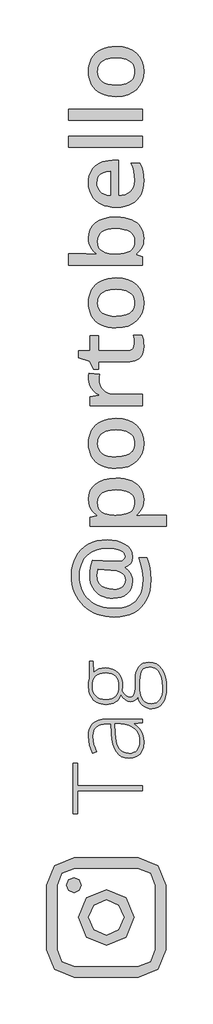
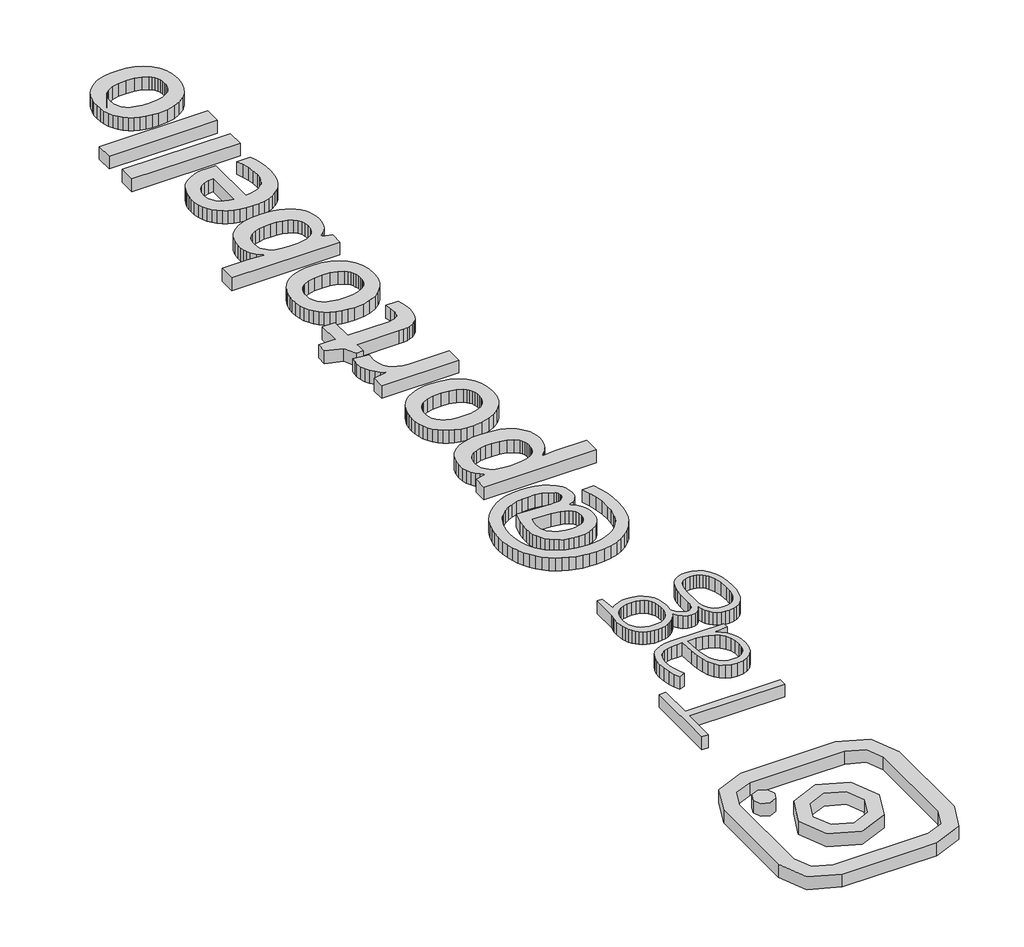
# One storey, part 3 of 7: 3 proxies.
"""IFC4 building model written with IfcOpenShell, lengths in millimetres."""

from ifc_helpers import new_model, si_unit, origin, origin_with_axes, place, context, project, spatial, polyline, outline, extrude, transform, mapped, element, save
from components import generic_models_d67f6705

model = new_model("IFC4")

# Units and contexts
model_context = context("Model", 3, world=origin())
ifc_project = project(units=[si_unit("LENGTHUNIT", "METRE", prefix="MILLI")], contexts=[model_context])

# Site, building, storey
site = spatial("IfcSite", under=ifc_project)
building = spatial("IfcBuilding", under=site)
storey = spatial("IfcBuildingStorey", under=building, Name="PORTOBELLO - SHOWROOM", Elevation=0.0)

# Proxies
placement = place(None, origin())
generic_models_shape = generic_models_d67f6705(model_context)
element("IfcBuildingElementProxy", 1, Name="Blks_Instagram : Único", ObjectType="Blks_Instagram : Único", at=placement, inside=storey, context=model_context, shape_type="MappedRepresentation", body=[
    mapped(generic_models_shape, transform((-14611.3805335, -13261.2406298, 0.0), x_axis=(-1.0, 0.0, 0.0), y_axis=(0.0, -1.0, 0.0), z_axis=(0.0, 0.0, 1.0))),
])
element("IfcBuildingElementProxy", 2, Name="80mm OpenSans Bold", ObjectType="80mm OpenSans Bold", at=placement, inside=storey, context=model_context, shape_type="SweptSolid", body=[
    extrude(outline(polyline([(-14600.648581, -9167.593007), (-14550.4420113, -9170.4473602), (-14501.2569994, -9179.0104197), (-14454.9563866, -9193.4023688), (-14413.4030138, -9213.7433907), (-14378.1592637, -9239.973394), (-14350.7875192, -9272.0322868), (-14340.5343822, -9290.3226814), (-14333.2107129, -9310.2205275), (-14327.3517775, -9354.8385743), (-14333.1806671, -9394.709381), (-14340.4667791, -9411.918126), (-14350.6673359, -9427.3090987), (-14376.7471101, -9451.2556194), (-14408.3553156, -9465.1668353), (-14408.3553156, -9471.8970996), (-14377.1977974, -9496.5346743), (-14351.0278858, -9529.1043461), (-14340.6695884, -9548.3937643), (-14333.2708046, -9569.7262984), (-14328.8315343, -9593.1019485), (-14327.3517775, -9618.5207145), (-14330.9497648, -9660.0740874), (-14341.7437266, -9696.5196703), (-14359.7336629, -9727.8574635), (-14384.9195738, -9754.0874667), (-14416.0245118, -9774.8040615), (-14451.7715294, -9789.6016292), (-14492.1606266, -9798.4801698), (-14537.1918034, -9801.4396833), (-14572.9087752, -9799.6294225), (-14606.5075165, -9794.19864), (-14637.9880272, -9785.1473359), (-14667.3503075, -9772.4755102), (-14694.1436699, -9756.4460638), (-14717.9174271, -9737.3218976), (-14738.6715792, -9715.1030117), (-14756.4061261, -9689.7894061), (-14770.6027773, -9661.7641649), (-14780.7432425, -9631.4103725), (-14786.8275216, -9598.7280288), (-14788.8556146, -9563.7171339), (-14786.6923154, -9515.3734051), (-14780.2024177, -9466.9695847), (-14761.6941909, -9390.4128284), (-14536.7110703, -9400.7485914), (-14509.5496465, -9402.1907909), (-14493.9258187, -9402.4311575), (-14449.638276, -9398.4050172), (-14434.1196086, -9393.3723419), (-14423.0176771, -9386.3265965), (-14409.6773318, -9368.8399277), (-14405.23055, -9348.5890431), (-14406.8905817, -9334.6177356), (-14411.8706768, -9321.7881693), (-14420.1708354, -9310.1003442), (-14431.7910573, -9299.5542605), (-14462.7983464, -9282.0075), (-14502.6991989, -9269.2680711), (-14549.4204533, -9261.5162489), (-14600.8889476, -9258.9323081), (-14647.6702936, -9261.3134396), (-14690.9062325, -9268.4568339), (-14730.5967643, -9280.3624912), (-14766.7418891, -9297.0304113), (-14799.0711943, -9317.844655), (-14827.3142677, -9342.1892829), (-14851.4711092, -9370.0642949), (-14871.5417188, -9401.4696911), (-14887.3157757, -9435.7970436), (-14898.5829592, -9472.4379244), (-14905.3432693, -9511.3923336), (-14907.596706, -9552.6602711), (-14905.8465369, -9594.9272322), (-14900.5960293, -9634.715413), (-14891.8451835, -9672.0248134), (-14879.5939992, -9706.8554334), (-14864.1804922, -9739.1171355), (-14845.9426778, -9768.7197824), (-14824.8805561, -9795.6633739), (-14800.994127, -9819.9479101), (-14774.5237572, -9841.490765), (-14745.7098132, -9860.2093126), (-14714.552295, -9876.1035528), (-14681.0512027, -9889.1734857), (-14645.4994829, -9899.3740425), (-14608.1900825, -9906.6601545), (-14528.2982399, -9912.4890441), (-14479.1357625, -9910.2506303), (-14433.8041274, -9903.5353889), (-14392.3033348, -9892.34332), (-14354.6333845, -9876.6744234), (-14321.0421547, -9856.6488826), (-14291.7775234, -9832.3868807), (-14266.8394905, -9803.8884179), (-14246.2280561, -9771.153494), (-14230.0859379, -9734.377407), (-14218.5558534, -9693.7554547), (-14211.6378027, -9649.287637), (-14209.3317858, -9600.9739541), (-14212.7570096, -9538.2983679), (-14223.032681, -9475.7429649), (-14238.115684, -9416.1921443), (-14255.9629027, -9362.5303049), (-14172.5556988, -9362.5303049), (-14154.2878386, -9413.4880202), (-14139.8658437, -9470.2145336), (-14130.491547, -9532.16902), (-14127.3667814, -9598.8106548), (-14130.3262949, -9660.5473091), (-14139.2048356, -9717.6418837), (-14154.0024033, -9770.0943788), (-14174.718998, -9817.9047942), (-14201.0166044, -9860.7351145), (-14232.5572068, -9898.2473241), (-14269.3408053, -9930.4414232), (-14311.3673998, -9957.3174116), (-14358.2163489, -9978.5072281), (-14409.467011, -9993.6428113), (-14465.1193862, -10002.7241612), (-14525.1734743, -10005.7512779), (-14574.1932341, -10003.7907879), (-14621.2600154, -9997.9093181), (-14666.3738182, -9988.1068685), (-14709.5346426, -9974.3834389), (-14750.3669157, -9956.9643732), (-14788.4950647, -9936.075015), (-14823.9190897, -9911.7153642), (-14856.6389907, -9883.8854209), (-14886.2566604, -9852.7879944), (-14912.3739918, -9818.6258939), (-14934.9909849, -9781.3991196), (-14954.1076396, -9741.1076713), (-14969.3033145, -9697.9919157), (-14980.1573679, -9652.2922193), (-14986.6698, -9604.0085822), (-14988.8406107, -9553.1410043), (-14985.8961201, -9498.4876527), (-14977.0626482, -9447.0191584), (-14962.340195, -9398.7355213), (-14941.7287606, -9353.6367414), (-14915.6865438, -9312.4739642), (-14884.6717433, -9275.9983354), (-14848.6843591, -9244.209855), (-14807.7243913, -9217.1085229), (-14762.1974584, -9195.4454847), (-14712.509179, -9179.971886), (-14658.6595533, -9170.6877268), (-14600.648581, -9167.593007)]), holes=[polyline([(-14534.547771, -9703.1297513), (-14503.1649092, -9701.5072769), (-14476.3189666, -9696.6398536), (-14454.0099432, -9688.5274815), (-14436.2378391, -9677.1701605), (-14422.6721501, -9663.018578), (-14412.9823723, -9646.5234213), (-14407.1685056, -9627.6846905), (-14405.23055, -9606.5023855), (-14408.032323, -9580.0245042), (-14416.4376419, -9557.5577402), (-14430.4465067, -9539.1020936), (-14450.0589175, -9524.6575643), (-14474.2533163, -9513.5180756), (-14502.008145, -9504.9775504), (-14568.1990925, -9495.6933912), (-14701.6025454, -9489.4438601), (-14707.6117099, -9521.0520656), (-14710.0153758, -9559.8712686), (-14708.4454815, -9584.5464005), (-14703.7357988, -9606.6526146), (-14695.8863276, -9626.1899108), (-14684.897068, -9643.1582892), (-14656.0230323, -9670.2596213), (-14619.637541, -9688.8279397), (-14578.2944889, -9699.5542984), (-14534.547771, -9703.1297513)])]), origin_with_axes(), (0.0, 0.0, 1.0), 100.0),
    extrude(outline(polyline([(-14804.2390758, -8727.4817957), (-14799.5369046, -8678.9202347), (-14785.4303908, -8635.391349), (-14761.9195345, -8596.8951387), (-14729.0043357, -8563.4316036), (-14686.8049777, -8536.3528059), (-14635.4416437, -8517.0108075), (-14574.9143339, -8505.4056085), (-14505.223048, -8501.5372088), (-14458.1187095, -8503.3324467), (-14414.8752591, -8508.7181604), (-14375.492697, -8517.6943499), (-14339.971023, -8530.2610153), (-14308.4379321, -8546.0500951), (-14281.0211188, -8564.6935282), (-14257.7205833, -8586.1913143), (-14238.5363255, -8610.5434536), (-14223.5509714, -8637.3818848), (-14212.8471471, -8666.3385464), (-14206.4248525, -8697.4134386), (-14204.2840876, -8730.6065613), (-14207.1384408, -8771.2585594), (-14215.7015002, -8806.2018512), (-14228.8615706, -8835.9772616), (-14245.5069564, -8861.1256152), (-14264.7062371, -8882.1576911), (-14285.5279923, -8899.5842683), (-14285.5279923, -8906.7952657), (-14239.3776085, -8901.8677508), (-14193.2272248, -8899.5842683), (-13958.1487078, -8899.5842683), (-13958.1487078, -9021.9308584), (-14788.8556146, -9021.9308584), (-14788.8556146, -8922.4190936), (-14714.1016077, -8905.3530663), (-14714.1016077, -8899.5842683), (-14737.5073036, -8881.7370496), (-14759.1703417, -8860.4045154), (-14777.7987518, -8834.8655661), (-14792.1005635, -8804.3991019), (-14801.2044477, -8768.7046645), (-14804.2390758, -8727.4817957)]), holes=[polyline([(-14704.727311, -8760.1716508), (-14699.6796127, -8805.4206599), (-14693.36999, -8824.3044594), (-14684.5365181, -8840.6944557), (-14673.1791971, -8854.808481), (-14659.298027, -8866.8643673), (-14623.9641395, -8884.8017235), (-14578.4146722, -8895.4078989), (-14522.5294419, -8899.5842683), (-14505.223048, -8899.5842683), (-14445.6722274, -8896.2792278), (-14395.8562533, -8886.3641063), (-14356.3159506, -8868.7272083), (-14340.6019853, -8856.5962074), (-14327.5921441, -8842.2568385), (-14317.3915873, -8825.4386892), (-14310.1054752, -8805.8713472), (-14305.733808, -8783.5548124), (-14304.2765856, -8758.4890848), (-14305.816434, -8737.2016193), (-14310.4359793, -8717.8070408), (-14318.1352214, -8700.305349), (-14328.9141603, -8684.6965441), (-14358.8097539, -8659.0975032), (-14399.2213855, -8640.9498262), (-14448.9772679, -8630.1333301), (-14506.9056141, -8626.5278313), (-14551.2682714, -8628.5784587), (-14590.3729097, -8634.7303409), (-14624.219529, -8644.9834779), (-14652.8081293, -8659.3378697), (-14675.5227713, -8677.9437455), (-14691.7475155, -8700.9513342), (-14701.4823621, -8728.360636), (-14704.727311, -8760.1716508)])]), origin_with_axes(), (0.0, 0.0, 1.0), 100.0),
    extrude(outline(polyline([(-14505.223048, -7852.5474378), (-14437.1692596, -7857.2045404), (-14377.2278432, -7871.1758479), (-14325.6992572, -7894.0707648), (-14282.8839599, -7925.4986954), (-14249.0223176, -7964.8587232), (-14224.3546972, -8011.5499317), (-14209.30174, -8065.1216336), (-14204.2840876, -8125.1231416), (-14209.30174, -8181.7595175), (-14224.3546972, -8233.4082867), (-14249.0223176, -8279.2882581), (-14282.8839599, -8318.61824), (-14325.6992572, -8350.5869954), (-14377.2278432, -8374.383287), (-14437.1692596, -8389.1658318), (-14505.223048, -8394.0933467), (-14551.245737, -8392.0352078), (-14593.6479043, -8385.8607913), (-14632.42955, -8375.570097), (-14667.5906741, -8361.163125), (-14698.958513, -8342.932822), (-14726.3603033, -8321.1721349), (-14749.7960451, -8295.8810637), (-14769.2657382, -8267.0596082), (-14784.5665734, -8235.0232497), (-14795.4957414, -8200.0874693), (-14802.0532422, -8162.2522671), (-14804.2390758, -8121.5176429), (-14802.0532422, -8083.0214325), (-14795.4957414, -8046.8537734), (-14784.5665734, -8013.0146656), (-14769.2657382, -7981.504109), (-14749.7810221, -7952.8178597), (-14726.3002117, -7927.4516739), (-14698.8233068, -7905.4055515), (-14667.3503075, -7886.6794925), (-14632.1140689, -7871.7467186), (-14593.3474461, -7861.0804515), (-14551.0504392, -7854.6806912), (-14505.223048, -7852.5474378)]), holes=[polyline([(-14505.223048, -8268.621991), (-14446.3632813, -8264.8061715), (-14396.6975363, -8253.358713), (-14356.9168671, -8233.8589741), (-14340.992581, -8220.9317589), (-14327.7123274, -8205.8863131), (-14317.2488696, -8188.624988), (-14309.7749712, -8169.0501345), (-14305.2906322, -8147.1617526), (-14303.7958525, -8122.9598424), (-14305.2906322, -8098.7579322), (-14309.7749712, -8076.8695503), (-14317.2488696, -8057.2946968), (-14327.7123274, -8040.0333717), (-14340.992581, -8025.0029488), (-14356.9168671, -8012.1208023), (-14396.6975363, -7992.8013383), (-14446.3632813, -7981.5341548), (-14505.223048, -7977.778427), (-14564.0828148, -7981.5341548), (-14613.2678266, -7992.8013383), (-14652.3574419, -8012.1208023), (-14667.9587354, -8025.0029488), (-14680.9310194, -8040.0333717), (-14691.1315762, -8057.3247426), (-14698.4176882, -8076.9897336), (-14702.7893554, -8099.0283446), (-14704.2465778, -8123.4405756), (-14701.0316748, -8158.7369058), (-14691.3869657, -8188.9104233), (-14675.3124505, -8213.961128), (-14652.8081293, -8233.8890199), (-14624.2946435, -8249.0846948), (-14590.1926347, -8259.9387482), (-14550.5021029, -8266.4511803), (-14505.223048, -8268.621991)])]), origin_with_axes(), (0.0, 0.0, 1.0), 100.0),
    extrude(outline(polyline([(-14804.2390758, -7423.4930893), (-14802.6766931, -7391.8848838), (-14798.4702779, -7362.4399775), (-14684.5365181, -7373.7372068), (-14689.2236664, -7400.4178974), (-14690.7860492, -7428.7811541), (-14688.1420168, -7460.5095429), (-14680.2099196, -7490.7957322), (-14666.8996201, -7518.6782557), (-14648.1209809, -7543.195647), (-14623.9340936, -7563.5667148), (-14594.3990499, -7579.0102677), (-14559.6059872, -7588.7451143), (-14519.645043, -7591.9900631), (-14219.6675488, -7591.9900631), (-14219.6675488, -7714.3366533), (-14788.8556146, -7714.3366533), (-14788.8556146, -7618.9111203), (-14692.4686153, -7602.3258261), (-14692.4686153, -7596.5570282), (-14721.7032008, -7577.4178391), (-14748.3538456, -7554.1323265), (-14771.1886708, -7526.8807653), (-14788.9757979, -7495.8434304), (-14800.4232564, -7461.2907343), (-14804.2390758, -7423.4930893)])), origin_with_axes(), (0.0, 0.0, 1.0), 100.0),
    extrude(outline(polyline([(-14302.8343861, -7039.1469249), (-14307.1609846, -6992.0350749), (-14317.7371142, -6949.4901899), (-14225.4363468, -6949.4901899), (-14210.5336187, -7001.8901047), (-14205.8464704, -7034.7001432), (-14204.2840876, -7068.7120145), (-14208.3703195, -7115.0126273), (-14220.6290152, -7156.3256336), (-14230.2737243, -7174.7362114), (-14242.862924, -7191.1487421), (-14258.3966143, -7205.5632256), (-14276.8747953, -7217.9796618), (-14298.7481543, -7227.9698979), (-14324.4673785, -7235.1057808), (-14354.0324681, -7239.3873105), (-14387.4434229, -7240.8144871), (-14696.074114, -7240.8144871), (-14696.074114, -7319.1739928), (-14750.3969615, -7319.1739928), (-14793.4225797, -7235.0456891), (-14911.9233045, -7195.1448365), (-14911.9233045, -7118.4678969), (-14788.8556146, -7118.4678969), (-14788.8556146, -6954.2975215), (-14696.074114, -6954.2975215), (-14696.074114, -7118.4678969), (-14388.8856224, -7118.4678969), (-14350.9377483, -7113.029603), (-14336.1326692, -7106.2317356), (-14324.1068286, -7096.7147213), (-14314.800135, -7084.9592931), (-14308.1524968, -7071.4461844), (-14302.8343861, -7039.1469249)])), origin_with_axes(), (0.0, 0.0, 1.0), 100.0),
    extrude(outline(polyline([(-14505.223048, -6329.5847754), (-14437.1692596, -6334.2418779), (-14377.2278432, -6348.2131854), (-14325.6992572, -6371.1081024), (-14282.8839599, -6402.5360329), (-14249.0223176, -6441.8960607), (-14224.3546972, -6488.5872692), (-14209.30174, -6542.1589712), (-14204.2840876, -6602.1604792), (-14209.30174, -6658.796855), (-14224.3546972, -6710.4456243), (-14249.0223176, -6756.3255956), (-14282.8839599, -6795.6555775), (-14325.6992572, -6827.6243329), (-14377.2278432, -6851.4206245), (-14437.1692596, -6866.2031693), (-14505.223048, -6871.1306842), (-14551.245737, -6869.0725454), (-14593.6479043, -6862.8981288), (-14632.42955, -6852.6074345), (-14667.5906741, -6838.2004625), (-14698.958513, -6819.9701596), (-14726.3603033, -6798.2094725), (-14749.7960451, -6772.9184012), (-14769.2657382, -6744.0969457), (-14784.5665734, -6712.0605872), (-14795.4957414, -6677.1248069), (-14802.0532422, -6639.2896046), (-14804.2390758, -6598.5549804), (-14802.0532422, -6560.0587701), (-14795.4957414, -6523.8911109), (-14784.5665734, -6490.0520031), (-14769.2657382, -6458.5414465), (-14749.7810221, -6429.8551973), (-14726.3002117, -6404.4890114), (-14698.8233068, -6382.442889), (-14667.3503075, -6363.71683), (-14632.1140689, -6348.7840561), (-14593.3474461, -6338.117789), (-14551.0504392, -6331.7180288), (-14505.223048, -6329.5847754)]), holes=[polyline([(-14505.223048, -6745.6593285), (-14446.3632813, -6741.843509), (-14396.6975363, -6730.3960506), (-14356.9168671, -6710.8963116), (-14340.992581, -6697.9690964), (-14327.7123274, -6682.9236506), (-14317.2488696, -6665.6623255), (-14309.7749712, -6646.087472), (-14305.2906322, -6624.1990901), (-14303.7958525, -6599.9971799), (-14305.2906322, -6575.7952697), (-14309.7749712, -6553.9068879), (-14317.2488696, -6534.3320343), (-14327.7123274, -6517.0707092), (-14340.992581, -6502.0402864), (-14356.9168671, -6489.1581399), (-14396.6975363, -6469.8386759), (-14446.3632813, -6458.5714923), (-14505.223048, -6454.8157645), (-14564.0828148, -6458.5714923), (-14613.2678266, -6469.8386759), (-14652.3574419, -6489.1581399), (-14667.9587354, -6502.0402864), (-14680.9310194, -6517.0707092), (-14691.1315762, -6534.3620802), (-14698.4176882, -6554.0270711), (-14702.7893554, -6576.0656821), (-14704.2465778, -6600.4779131), (-14701.0316748, -6635.7742433), (-14691.3869657, -6665.9477608), (-14675.3124505, -6690.9984655), (-14652.8081293, -6710.9263574), (-14624.2946435, -6726.1220323), (-14590.1926347, -6736.9760857), (-14550.5021029, -6743.4885178), (-14505.223048, -6745.6593285)])]), origin_with_axes(), (0.0, 0.0, 1.0), 100.0),
    extrude(outline(polyline([(-15019.6075332, -6069.5081338), (-14829.4775669, -6069.5081338), (-14764.9391397, -6071.3108832), (-14715.5438071, -6074.7961986), (-14715.5438071, -6069.5081338), (-14749.9162283, -6041.5955645), (-14778.5198516, -6004.4889734), (-14789.7720122, -5982.1574157), (-14797.8092698, -5956.8663444), (-14802.6316243, -5928.6157596), (-14804.2390758, -5897.4056612), (-14799.5143702, -5848.8290773), (-14785.3402533, -5805.2551229), (-14761.7167252, -5766.683798), (-14728.6437859, -5733.1151025), (-14686.3167331, -5705.9311444), (-14634.9308648, -5686.5140315), (-14574.4861809, -5674.8637637), (-14504.9826815, -5670.9803411), (-14457.7882054, -5672.7605561), (-14414.5147092, -5678.1012011), (-14375.1621929, -5687.0022761), (-14339.7306565, -5699.4637811), (-14308.3027259, -5715.1477006), (-14280.9610272, -5733.716019), (-14257.7055604, -5755.1687364), (-14238.5363255, -5779.5058528), (-14223.5509714, -5806.4043756), (-14212.8471471, -5835.5413122), (-14206.4248525, -5866.9166626), (-14204.2840876, -5900.5304268), (-14205.7863787, -5931.6428762), (-14210.2932521, -5959.6005143), (-14217.8047078, -5984.4033409), (-14228.3207458, -6006.0513562), (-14254.4005199, -6041.8659769), (-14284.5665259, -6069.0274007), (-14284.5665259, -6077.9209642), (-14219.6675488, -6100.0346897), (-14219.6675488, -6191.3739908), (-15019.6075332, -6191.3739908), (-15019.6075332, -6069.5081338)]), holes=[polyline([(-14705.2080441, -5929.6147832), (-14699.9500251, -5975.9754877), (-14693.3775014, -5995.1672569), (-14684.1759682, -6011.6999709), (-14672.3679599, -6025.8440419), (-14657.9760108, -6037.8698825), (-14621.4402904, -6055.5668721), (-14574.1181196, -6065.7824518), (-14515.5588111, -6069.5081338), (-14504.5019483, -6069.5081338), (-14458.6970915, -6067.615247), (-14418.6309869, -6061.9365865), (-14384.3036345, -6052.4721523), (-14355.7150341, -6039.2219445), (-14333.2107129, -6020.9540843), (-14317.1361978, -5996.4366929), (-14307.4914887, -5965.6697705), (-14304.2765856, -5928.6533169), (-14307.5440689, -5898.5474025), (-14317.3465185, -5872.1671701), (-14333.6839346, -5849.5126198), (-14356.5563172, -5830.5837515), (-14385.5430247, -5815.6509776), (-14420.2234155, -5804.9847105), (-14460.5974898, -5798.5849503), (-14506.6652475, -5796.4516969), (-14553.0034176, -5798.5699274), (-14593.2272628, -5804.9246189), (-14627.3367831, -5815.5157714), (-14655.3319784, -5830.3433849), (-14677.1527572, -5849.2572303), (-14692.7390277, -5872.1070785), (-14702.09079, -5898.8929295), (-14705.2080441, -5929.6147832)])]), origin_with_axes(), (0.0, 0.0, 1.0), 100.0),
    extrude(outline(polyline([(-14804.2390758, -5301.2965383), (-14802.2785859, -5264.317642), (-14796.3971161, -5230.0578926), (-14786.5946664, -5198.5172902), (-14772.8712369, -5169.6958347), (-14755.5498201, -5143.8188699), (-14734.9534086, -5121.1117394), (-14711.0820025, -5101.5744432), (-14683.9356016, -5085.2069812), (-14653.7320383, -5072.2722545), (-14620.6891448, -5063.033164), (-14584.806921, -5057.4897098), (-14546.085367, -5055.6418917), (-14481.1863899, -5055.6418917), (-14481.1863899, -5438.5458565), (-14440.1813533, -5435.0304953), (-14404.1789462, -5426.4073441), (-14373.1791686, -5412.6764031), (-14347.1820205, -5393.8376723), (-14326.6231663, -5370.2967702), (-14311.9382704, -5342.4593154), (-14303.1273329, -5310.325308), (-14300.1903537, -5273.894748), (-14302.8343861, -5221.6751081), (-14310.7664833, -5175.1040828), (-14323.8664621, -5130.6362652), (-14342.014139, -5084.7262481), (-14243.2234738, -5084.7262481), (-14225.736805, -5127.962187), (-14213.6583843, -5172.0995006), (-14206.6276618, -5221.1042374), (-14204.2840876, -5278.9424462), (-14206.3572494, -5319.9549942), (-14212.5767347, -5358.3836015), (-14222.9425435, -5394.228268), (-14237.4546759, -5427.4889937), (-14256.083086, -5457.7150914), (-14278.797728, -5484.4558736), (-14305.5986018, -5507.7113404), (-14336.4857076, -5527.4814918), (-14371.4139765, -5543.2555487), (-14410.3383399, -5554.5227322), (-14453.2587976, -5561.2830424), (-14500.1753498, -5563.5364791), (-14546.9041156, -5561.4933631), (-14589.982314, -5555.3640153), (-14629.4099448, -5545.1484356), (-14665.1870083, -5530.8466239), (-14697.1182064, -5512.8566876), (-14725.0082413, -5491.5767336), (-14748.8571131, -5467.0067621), (-14768.6648217, -5439.146773), (-14784.2285579, -5408.4023849), (-14795.3455123, -5375.1792164), (-14802.015685, -5339.4772675), (-14804.2390758, -5301.2965383)]), holes=[polyline([(-14712.6594082, -5301.2965383), (-14710.3609027, -5328.6532599), (-14703.4653864, -5353.2758116), (-14691.9728592, -5375.1641935), (-14675.8833211, -5394.3184055), (-14655.3620242, -5410.2577144), (-14630.5742205, -5422.5013872), (-14601.5199099, -5431.0494237), (-14568.1990925, -5435.9018241), (-14568.1990925, -5174.8637162), (-14608.0999451, -5178.6494899), (-14643.193466, -5189.0453446), (-14672.3078682, -5206.261601), (-14694.2713647, -5230.5085799), (-14708.0623973, -5262.0867396), (-14712.6594082, -5301.2965383)])]), origin_with_axes(), (0.0, 0.0, 1.0), 100.0),
    extrude(outline(polyline([(-14219.6675488, -4792.200118), (-14219.6675488, -4914.5467081), (-15019.6075332, -4914.5467081), (-15019.6075332, -4792.200118), (-14219.6675488, -4792.200118)])), origin_with_axes(), (0.0, 0.0, 1.0), 100.0),
    extrude(outline(polyline([(-14219.6675488, -4499.9143545), (-14219.6675488, -4622.2609446), (-15019.6075332, -4622.2609446), (-15019.6075332, -4499.9143545), (-14219.6675488, -4499.9143545)])), origin_with_axes(), (0.0, 0.0, 1.0), 100.0),
    extrude(outline(polyline([(-14505.223048, -3822.0805937), (-14437.1692596, -3826.7376962), (-14377.2278432, -3840.7090038), (-14325.6992572, -3863.6039207), (-14282.8839599, -3895.0318513), (-14249.0223176, -3934.3918791), (-14224.3546972, -3981.0830876), (-14209.30174, -4034.6547895), (-14204.2840876, -4094.6562975), (-14209.30174, -4151.2926733), (-14224.3546972, -4202.9414426), (-14249.0223176, -4248.8214139), (-14282.8839599, -4288.1513959), (-14325.6992572, -4320.1201513), (-14377.2278432, -4343.9164429), (-14437.1692596, -4358.6989876), (-14505.223048, -4363.6265026), (-14551.245737, -4361.5683637), (-14593.6479043, -4355.3939471), (-14632.42955, -4345.1032529), (-14667.5906741, -4330.6962809), (-14698.958513, -4312.4659779), (-14726.3603033, -4290.7052908), (-14749.7960451, -4265.4142195), (-14769.2657382, -4236.5927641), (-14784.5665734, -4204.5564056), (-14795.4957414, -4169.6206252), (-14802.0532422, -4131.7854229), (-14804.2390758, -4091.0507988), (-14802.0532422, -4052.5545884), (-14795.4957414, -4016.3869293), (-14784.5665734, -3982.5478214), (-14769.2657382, -3951.0372649), (-14749.7810221, -3922.3510156), (-14726.3002117, -3896.9848298), (-14698.8233068, -3874.9387073), (-14667.3503075, -3856.2126483), (-14632.1140689, -3841.2798744), (-14593.3474461, -3830.6136074), (-14551.0504392, -3824.2138471), (-14505.223048, -3822.0805937)]), holes=[polyline([(-14505.223048, -4238.1551469), (-14446.3632813, -4234.3393274), (-14396.6975363, -4222.8918689), (-14356.9168671, -4203.39213), (-14340.992581, -4190.4649147), (-14327.7123274, -4175.419469), (-14317.2488696, -4158.1581438), (-14309.7749712, -4138.5832903), (-14305.2906322, -4116.6949085), (-14303.7958525, -4092.4929983), (-14305.2906322, -4068.2910881), (-14309.7749712, -4046.4027062), (-14317.2488696, -4026.8278527), (-14327.7123274, -4009.5665275), (-14340.992581, -3994.5361047), (-14356.9168671, -3981.6539582), (-14396.6975363, -3962.3344942), (-14446.3632813, -3951.0673107), (-14505.223048, -3947.3115828), (-14564.0828148, -3951.0673107), (-14613.2678266, -3962.3344942), (-14652.3574419, -3981.6539582), (-14667.9587354, -3994.5361047), (-14680.9310194, -4009.5665275), (-14691.1315762, -4026.8578985), (-14698.4176882, -4046.5228895), (-14702.7893554, -4068.5615005), (-14704.2465778, -4092.9737314), (-14701.0316748, -4128.2700617), (-14691.3869657, -4158.4435792), (-14675.3124505, -4183.4942839), (-14652.8081293, -4203.4221758), (-14624.2946435, -4218.6178506), (-14590.1926347, -4229.4719041), (-14550.5021029, -4235.9843362), (-14505.223048, -4238.1551469)])]), origin_with_axes(), (0.0, 0.0, 1.0), 100.0),
])
element("IfcBuildingElementProxy", 3, Name="80mm OpenSans Light", ObjectType="80mm OpenSans Light", at=placement, inside=storey, context=model_context, shape_type="SweptSolid", body=[
    extrude(outline(polyline([(-14219.6675488, -11835.6088843), (-14219.6675488, -11889.4509987), (-14925.3838331, -11889.4509987), (-14925.3838331, -12135.1056453), (-14973.4571494, -12135.1056453), (-14973.4571494, -11589.9542377), (-14925.3838331, -11589.9542377), (-14925.3838331, -11835.6088843), (-14219.6675488, -11835.6088843)])), origin_with_axes(), (0.0, 0.0, 1.0), 100.0),
    extrude(outline(polyline([(-14804.2390758, -11296.2262747), (-14801.2645394, -11252.8551296), (-14792.34093, -11215.2828283), (-14777.4682478, -11183.5093708), (-14756.6464926, -11157.534757), (-14729.3198169, -11137.3439641), (-14694.9323728, -11122.9219692), (-14653.4841603, -11114.2687723), (-14604.9751795, -11111.3843733), (-14219.6675488, -11111.3843733), (-14219.6675488, -11151.765959), (-14313.1701492, -11161.1402557), (-14313.1701492, -11164.2650213), (-14283.2144639, -11184.2755392), (-14256.8041857, -11208.2521058), (-14234.8406893, -11237.0960956), (-14218.2253493, -11271.7088834), (-14207.769403, -11313.3523937), (-14204.2840876, -11363.288551), (-14209.0313276, -11413.6753958), (-14223.2730476, -11456.1902349), (-14246.6186518, -11490.3823812), (-14278.6775447, -11515.8011472), (-14318.9689929, -11531.5752042), (-14367.0122635, -11536.8332231), (-14408.3703385, -11532.4916017), (-14444.4703945, -11519.4667376), (-14475.3124315, -11497.7586307), (-14500.8964496, -11467.367281), (-14521.3426319, -11428.8485362), (-14536.7711619, -11382.7582442), (-14547.1820395, -11329.0964048), (-14552.5752647, -11267.8630181), (-14558.103696, -11163.0631884), (-14599.2063815, -11163.0631884), (-14639.3701351, -11165.2039533), (-14673.3294262, -11171.6262479), (-14701.084255, -11182.3300722), (-14722.6346213, -11197.3154263), (-14738.7767396, -11216.4771497), (-14750.306824, -11239.7100822), (-14757.2248747, -11267.0142236), (-14759.5308916, -11298.389574), (-14756.7666759, -11341.0546422), (-14748.4740289, -11382.0371444), (-14734.9534086, -11422.5389135), (-14716.5052735, -11463.7617823), (-14760.0116248, -11480.3470764), (-14777.5583853, -11438.4631995), (-14791.7400136, -11393.5747404), (-14801.1143103, -11346.0422488), (-14804.2390758, -11296.2262747)]), holes=[polyline([(-14517.0010106, -11163.5439215), (-14512.6744121, -11262.0942201), (-14508.0473554, -11312.5937366), (-14499.6946167, -11356.6484242), (-14487.6161959, -11394.2582828), (-14471.8120932, -11425.4233125), (-14451.9518043, -11449.8731007), (-14427.7048254, -11467.3372352), (-14399.0711563, -11477.8157158), (-14366.0507972, -11481.3085427), (-14339.3400608, -11479.220358), (-14315.9343649, -11472.955804), (-14295.8337094, -11462.5148806), (-14279.0380945, -11447.8975879), (-14265.7878867, -11429.5546131), (-14256.3234526, -11407.9366436), (-14250.6447921, -11383.0436795), (-14248.7519052, -11354.8757207), (-14252.259755, -11311.2266517), (-14262.7833044, -11273.0609454), (-14280.3225535, -11240.3786017), (-14304.8775021, -11213.1796207), (-14335.5017069, -11191.7344147), (-14371.2487245, -11176.3133962), (-14412.1185549, -11166.9165651), (-14458.111198, -11163.5439215), (-14517.0010106, -11163.5439215)])]), origin_with_axes(), (0.0, 0.0, 1.0), 100.0),
    extrude(outline(polyline([(-13958.1487078, -10774.8711587), (-13960.7551829, -10825.0251483), (-13968.5746083, -10869.2450879), (-13981.6069839, -10907.5309775), (-13999.8523097, -10939.8828172), (-14022.769761, -10965.59453), (-14049.8185129, -10983.9600391), (-14080.9985655, -10994.9793446), (-14116.3099186, -10998.6524464), (-14144.2750681, -10996.4215441), (-14170.2421704, -10989.7288371), (-14194.2112255, -10978.5743254), (-14216.1822334, -10962.958009), (-14235.0585215, -10943.5108502), (-14249.7434174, -10920.8638114), (-14260.236921, -10895.0168924), (-14266.5390323, -10865.9700932), (-14280.480294, -10888.1739562), (-14298.7481543, -10905.7507625), (-14320.8017881, -10917.198221), (-14346.1003709, -10921.0140405), (-14375.3349564, -10916.4771212), (-14402.4663343, -10902.8663636), (-14427.5545963, -10880.1817674), (-14450.659834, -10848.4233328), (-14461.1232917, -10871.521059), (-14474.726538, -10892.0198215), (-14491.4695727, -10909.9196204), (-14511.3523959, -10925.2204557), (-14533.8942744, -10937.4716399), (-14558.614475, -10946.2224858), (-14585.5129978, -10951.4729933), (-14614.5898428, -10953.2231624), (-14642.4873892, -10951.6983369), (-14668.4920488, -10947.1238604), (-14692.6038215, -10939.4997329), (-14714.8227074, -10928.8259544), (-14734.9008284, -10915.3504029), (-14752.5903066, -10899.3209565), (-14767.8911418, -10880.7376151), (-14780.8033341, -10859.6003788), (-14791.0564711, -10836.1571256), (-14798.3801404, -10810.6557336), (-14804.2390758, -10753.4785329), (-14803.1574262, -10719.7070282), (-14799.7922941, -10691.4639548), (-14793.9033128, -10668.1483964), (-14793.9033128, -10486.1908939), (-14756.4061261, -10486.1908939), (-14748.7143954, -10602.287953), (-14719.7201765, -10582.3074809), (-14688.5025667, -10568.0357151), (-14655.3019326, -10559.4726556), (-14620.3586407, -10556.6183024), (-14579.9019404, -10559.9233429), (-14543.8619761, -10569.8384644), (-14512.2387477, -10586.3636669), (-14485.0322552, -10609.4989504), (-14463.1588962, -10638.5232152), (-14447.5350684, -10672.7153615), (-14438.1607717, -10712.0753892), (-14435.0360061, -10756.6032985), (-14439.6029712, -10807.5610139), (-14420.0130948, -10835.3233541), (-14400.1828518, -10855.6343302), (-14377.8888513, -10868.0733008), (-14350.9077025, -10872.2196244), (-14334.1120876, -10869.6356836), (-14320.7416965, -10861.8838614), (-14310.4359793, -10849.2045242), (-14302.8343861, -10831.8380386), (-14298.1472378, -10809.9646797), (-14296.584855, -10783.7647223), (-14296.584855, -10684.7336905), (-14294.2187465, -10641.520286), (-14287.1204209, -10603.7001066), (-14275.2898782, -10571.2731525), (-14258.7271184, -10544.2394235), (-14237.5523248, -10522.9444466), (-14211.8856807, -10507.7337488), (-14181.7271862, -10498.6073302), (-14147.0768411, -10495.5651906), (-14104.6521394, -10500.1171328), (-14067.2751359, -10513.7729592), (-14034.9458307, -10536.5326699), (-14007.6642237, -10568.3962649), (-13986.0011855, -10608.6125987), (-13970.5275868, -10656.4305255), (-13961.2434275, -10711.8500456), (-13958.1487078, -10774.8711587)]), holes=[polyline([(-14002.1357923, -10771.26566), (-14006.25207, -10703.2118715), (-14018.6009031, -10647.5970536), (-14038.9419251, -10604.3310689), (-14052.0193695, -10587.2950874), (-14067.0347694, -10573.3237799), (-14083.9655905, -10562.4396806), (-14102.7892984, -10554.6653239), (-14123.5058932, -10550.00071), (-14146.1153748, -10548.4458386), (-14180.4577502, -10552.9827579), (-14206.086837, -10566.5935156), (-14224.0842848, -10588.4969203), (-14235.5317432, -10617.9117808), (-14241.6610911, -10654.0268597), (-14243.704207, -10696.0309199), (-14243.704207, -10790.4949865), (-14240.5794414, -10833.0098257), (-14231.2051448, -10870.6572416), (-14215.1005838, -10901.934943), (-14191.7850253, -10925.340639), (-14160.2970031, -10939.9429088), (-14119.6750508, -10944.8103321), (-14092.5662072, -10942.0386049), (-14068.9276562, -10933.7234235), (-14048.7593977, -10919.8647878), (-14032.0614317, -10900.4626977), (-14018.9689645, -10875.75752), (-14009.6172021, -10845.9896211), (-14004.0061447, -10811.1590011), (-14002.1357923, -10771.26566)]), polyline([(-14477.100158, -10754.6803659), (-14479.3385718, -10721.7426327), (-14486.0538131, -10692.8761085), (-14497.2458821, -10668.0807933), (-14512.9147787, -10647.3566871), (-14532.8351591, -10631.004248), (-14556.7816798, -10619.3239345), (-14584.7543408, -10612.3157463), (-14616.753142, -10609.9796836), (-14650.7875477, -10612.375838), (-14680.3000571, -10619.564301), (-14705.2906701, -10631.5450729), (-14725.7593869, -10648.3181534), (-14741.6911844, -10669.4028095), (-14753.0710397, -10694.318308), (-14759.8989529, -10723.0646489), (-14762.174924, -10755.6418322), (-14759.7562353, -10787.2575491), (-14752.5001691, -10815.2827903), (-14740.4067255, -10839.7175556), (-14723.4759043, -10860.5618452), (-14702.1583931, -10877.2297653), (-14676.9048791, -10889.1354226), (-14647.7153623, -10896.2788169), (-14614.5898428, -10898.6599484), (-14583.7327828, -10896.3914888), (-14556.5413133, -10889.5861099), (-14533.0154341, -10878.2438118), (-14513.1551452, -10862.3645945), (-14497.3810883, -10842.0235725), (-14486.1139048, -10817.2958604), (-14479.3535947, -10788.1814582), (-14477.100158, -10754.6803659)])]), origin_with_axes(), (0.0, 0.0, 1.0), 100.0),
])

save(model, "model.ifc")
